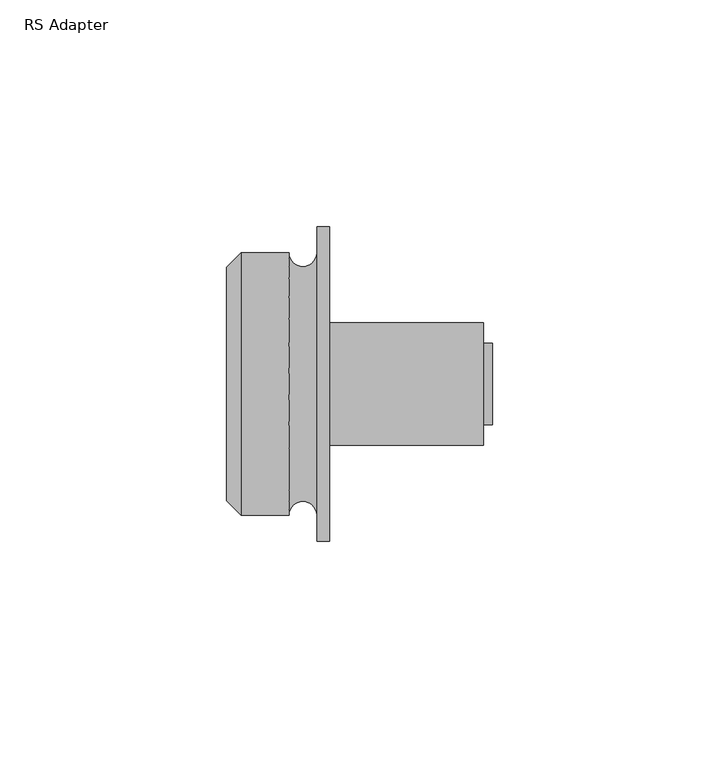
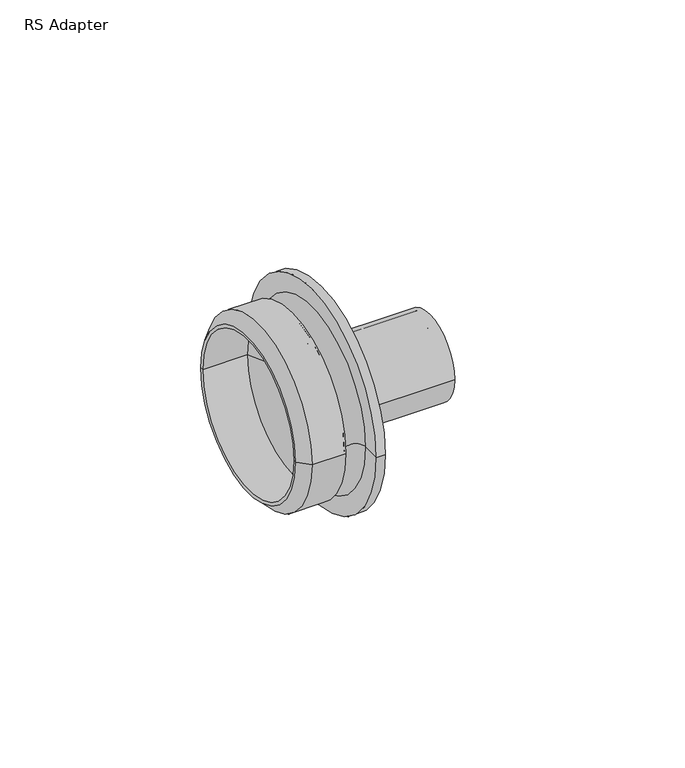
"""IFC4 building model written with IfcOpenShell, lengths in millimetres: pipe fitting geometry, RS Adapter : Superpipe RS Press Adapter."""

from ifc_helpers import new_model, si_unit, point, frame, origin, place, context, project, spatial, polyline, circle_curve, ellipse_curve, trimmed, source, transform, mapped, element, save
from ifc_brep_helpers import plane_surface, cylinder_surface, revolved_surface, advanced_brep


def rs_adapter_ef84fdb0(model_context):
    return source(origin(), model_context, "Body", "AdvancedBrep", [
        advanced_brep(
        [(56.8, -13.5, 0.0), (56.8, 13.5, 0.0), (56.8, 12.5, 0.0), (56.8, -12.5, 0.0), (22.8, 12.5, 0.0), (22.8, -12.5, 0.0), (22.8, 13.5, 0.0), (22.8, -13.5, 0.0)],
        [
            (0, 1, circle_curve(frame((56.8, 0.0, 0.0), z_axis=(1.0, 0.0, 0.0), x_axis=(0.0, 1.0, 0.0)), 13.5)),
            (1, 2),
            (2, 3, circle_curve(frame((56.8, 0.0, 0.0), z_axis=(-1.0, 0.0, 0.0), x_axis=(0.0, 1.0, 0.0)), 12.5)),
            (3, 0),
            (2, 4),
            (4, 5, circle_curve(frame((22.8, 0.0, 0.0), z_axis=(-1.0, 0.0, 0.0), x_axis=(0.0, 1.0, 0.0)), 12.5)),
            (5, 3),
            (4, 6),
            (6, 7, circle_curve(frame((22.8, 0.0, 0.0), z_axis=(-1.0, 0.0, 0.0), x_axis=(0.0, 1.0, 0.0)), 13.5)),
            (7, 5),
            (6, 1),
            (0, 7),
            (6, 7, circle_curve(frame((22.8, 0.0, 0.0), z_axis=(1.0, 0.0, 0.0), x_axis=(0.0, 1.0, 0.0)), 13.5)),
            (0, 1, circle_curve(frame((56.8, 0.0, 0.0), z_axis=(-1.0, 0.0, 0.0), x_axis=(0.0, 1.0, 0.0)), 13.5)),
            (4, 5, circle_curve(frame((22.8, 0.0, 0.0), z_axis=(1.0, 0.0, 0.0), x_axis=(0.0, 1.0, 0.0)), 12.5)),
            (2, 3, circle_curve(frame((56.8, 0.0, 0.0), z_axis=(1.0, 0.0, 0.0), x_axis=(0.0, 1.0, 0.0)), 12.5)),
        ],
        [
            plane_surface(frame((56.8, 0.0, 0.0), z_axis=(1.0, 0.0, 0.0), x_axis=(0.0, 1.0, 0.0))),
            revolved_surface(polyline([(22.799999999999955, 12.5, 0.0), (56.799999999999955, 12.5, 0.0)]), (1994.0, 0.0, 0.0), (-1.0, 0.0, 0.0)),
            plane_surface(frame((22.8, 0.0, 0.0), z_axis=(-1.0, 0.0, 0.0), x_axis=(0.0, 1.0, 0.0))),
            cylinder_surface(frame((1994.0, 0.0, 0.0), z_axis=(-1.0, 0.0, 0.0), x_axis=(0.0, 1.0, 0.0)), 13.5),
        ],
        [
            (0, [[1, 2, 3, 4]]),
            (1, [[-3, 5, 6, 7]]),
            (2, [[-6, 8, 9, 10]]),
            (3, [[-9, 11, -1, 12]]),
            (3, [[13, -12, 14, -11]]),
            (2, [[15, -10, -13, -8]]),
            (1, [[16, -7, -15, -5]]),
            (0, [[-14, -4, -16, -2]]),
        ],
    ),
        advanced_brep(
        [(58.8, -9.0, 0.0), (58.8, 9.0, 0.0), (58.8, 7.0, 0.0), (58.8, -7.0, 0.0), (22.8, 7.0, 0.0), (22.8, -7.0, 0.0), (22.8, 9.0, 0.0), (22.8, -9.0, 0.0)],
        [
            (0, 1, circle_curve(frame((58.8, 0.0, 0.0), z_axis=(1.0, 0.0, 0.0), x_axis=(0.0, 1.0, 0.0)), 9.0)),
            (1, 2),
            (2, 3, circle_curve(frame((58.8, 0.0, 0.0), z_axis=(-1.0, 0.0, 0.0), x_axis=(0.0, 1.0, 0.0)), 7.0)),
            (3, 0),
            (2, 4),
            (4, 5, circle_curve(frame((22.8, 0.0, 0.0), z_axis=(-1.0, 0.0, 0.0), x_axis=(0.0, 1.0, 0.0)), 7.0)),
            (5, 3),
            (4, 6),
            (6, 7, circle_curve(frame((22.8, 0.0, 0.0), z_axis=(-1.0, 0.0, 0.0), x_axis=(0.0, 1.0, 0.0)), 9.0)),
            (7, 5),
            (6, 1),
            (0, 7),
            (6, 7, circle_curve(frame((22.8, 0.0, 0.0), z_axis=(1.0, 0.0, 0.0), x_axis=(0.0, 1.0, 0.0)), 9.0)),
            (0, 1, circle_curve(frame((58.8, 0.0, 0.0), z_axis=(-1.0, 0.0, 0.0), x_axis=(0.0, 1.0, 0.0)), 9.0)),
            (4, 5, circle_curve(frame((22.8, 0.0, 0.0), z_axis=(1.0, 0.0, 0.0), x_axis=(0.0, 1.0, 0.0)), 7.0)),
            (2, 3, circle_curve(frame((58.8, 0.0, 0.0), z_axis=(1.0, 0.0, 0.0), x_axis=(0.0, 1.0, 0.0)), 7.0)),
        ],
        [
            plane_surface(frame((58.8, 0.0, 0.0), z_axis=(1.0, 0.0, 0.0), x_axis=(0.0, 1.0, 0.0))),
            revolved_surface(polyline([(22.799999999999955, 7.0, 0.0), (58.799999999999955, 7.0, 0.0)]), (1994.0, 0.0, 0.0), (-1.0, 0.0, 0.0)),
            plane_surface(frame((22.8, 0.0, 0.0), z_axis=(-1.0, 0.0, 0.0), x_axis=(0.0, 1.0, 0.0))),
            cylinder_surface(frame((1994.0, 0.0, 0.0), z_axis=(-1.0, 0.0, 0.0), x_axis=(0.0, 1.0, 0.0)), 9.0),
        ],
        [
            (0, [[1, 2, 3, 4]]),
            (1, [[-3, 5, 6, 7]]),
            (2, [[-6, 8, 9, 10]]),
            (3, [[-9, 11, -1, 12]]),
            (3, [[13, -12, 14, -11]]),
            (2, [[15, -10, -13, -8]]),
            (1, [[16, -7, -15, -5]]),
            (0, [[-14, -4, -16, -2]]),
        ],
    ),
        advanced_brep(
        [(20.0, -34.75, 0.0), (20.0, 34.75, 0.0), (22.8, 34.75, 0.0), (22.8, -34.75, 0.0), (20.0, -29.0, 0.0), (20.0, 29.0, 0.0), (22.8, 7.0, 0.0), (22.8, -7.0, 0.0), (0.0, -25.8, 0.0), (0.0, 25.8, 0.0), (3.2, 29.0, 0.0), (3.2, -29.0, 0.0), (0.0, -24.8, 0.0), (0.0, 24.8, 0.0), (13.8, -29.0, 0.0), (13.8, 29.0, 0.0), (14.0, -24.8, 0.0), (14.0, 24.8, 0.0)],
        [
            (0, 1, circle_curve(frame((20.0, 0.0, 0.0), z_axis=(1.0, 0.0, 0.0), x_axis=(0.0, 1.0, 0.0)), 34.75)),
            (1, 2),
            (2, 3, circle_curve(frame((22.8, 0.0, 0.0), z_axis=(-1.0, 0.0, 0.0), x_axis=(0.0, 1.0, 0.0)), 34.75)),
            (3, 0),
            (1, 0, circle_curve(frame((20.0, 0.0, 0.0), z_axis=(1.0, 0.0, 0.0), x_axis=(0.0, 1.0, 0.0)), 34.75)),
            (3, 2, circle_curve(frame((22.8, 0.0, 0.0), z_axis=(-1.0, 0.0, 0.0), x_axis=(0.0, 1.0, 0.0)), 34.75)),
            (0, 4),
            (4, 5, circle_curve(frame((20.0, 0.0, 0.0), z_axis=(1.0, 0.0, 0.0), x_axis=(0.0, 1.0, 0.0)), 29.0)),
            (5, 1),
            (5, 4, circle_curve(frame((20.0, 0.0, 0.0), z_axis=(1.0, 0.0, 0.0), x_axis=(0.0, 1.0, 0.0)), 29.0)),
            (2, 6),
            (6, 7, circle_curve(frame((22.8, 0.0, 0.0), z_axis=(-1.0, 0.0, 0.0), x_axis=(0.0, 1.0, 0.0)), 7.0)),
            (7, 3),
            (7, 6, circle_curve(frame((22.8, 0.0, 0.0), z_axis=(-1.0, 0.0, 0.0), x_axis=(0.0, 1.0, 0.0)), 7.0)),
            (8, 9, circle_curve(frame((0.0, 0.0, 0.0), z_axis=(1.0, 0.0, 0.0), x_axis=(0.0, 1.0, 0.0)), 25.8)),
            (9, 10),
            (10, 11, circle_curve(frame((3.2, 0.0, 0.0), z_axis=(-1.0, 0.0, 0.0), x_axis=(0.0, 1.0, 0.0)), 29.0)),
            (11, 8),
            (9, 8, circle_curve(frame((0.0, 0.0, 0.0), z_axis=(1.0, 0.0, 0.0), x_axis=(0.0, 1.0, 0.0)), 25.8)),
            (11, 10, circle_curve(frame((3.2, 0.0, 0.0), z_axis=(-1.0, 0.0, 0.0), x_axis=(0.0, 1.0, 0.0)), 29.0)),
            (8, 12),
            (12, 13, circle_curve(frame((0.0, 0.0, 0.0), z_axis=(1.0, 0.0, 0.0), x_axis=(0.0, 1.0, 0.0)), 24.8)),
            (13, 9),
            (13, 12, circle_curve(frame((0.0, 0.0, 0.0), z_axis=(1.0, 0.0, 0.0), x_axis=(0.0, 1.0, 0.0)), 24.8)),
            (4, 14, circle_curve(frame((16.9, -29.0, 0.0), z_axis=(0.0, 0.0, 1.0), x_axis=(1.0, 0.0, 0.0)), 3.1)),
            (14, 15, circle_curve(frame((13.8, 0.0, 0.0), z_axis=(1.0, 0.0, 0.0), x_axis=(0.0, 1.0, 0.0)), 29.0)),
            (15, 5, circle_curve(frame((16.9, 29.0, 0.0), z_axis=(0.0, 0.0, 1.0), x_axis=(1.0, 0.0, 0.0)), 3.1)),
            (15, 14, circle_curve(frame((13.8, 0.0, 0.0), z_axis=(1.0, 0.0, 0.0), x_axis=(0.0, 1.0, 0.0)), 29.0)),
            (10, 15),
            (14, 11),
            (12, 16),
            (16, 17, circle_curve(frame((14.0, 0.0, 0.0), z_axis=(1.0, 0.0, 0.0), x_axis=(0.0, 1.0, 0.0)), 24.8)),
            (17, 13),
            (17, 16, circle_curve(frame((14.0, 0.0, 0.0), z_axis=(1.0, 0.0, 0.0), x_axis=(0.0, 1.0, 0.0)), 24.8)),
            (16, 7),
            (6, 17),
        ],
        [
            cylinder_surface(frame((1978.8, 0.0, 0.0), z_axis=(-1.0, 0.0, 0.0), x_axis=(0.0, 1.0, 0.0)), 34.75),
            plane_surface(frame((20.0, 0.0, 0.0), z_axis=(-1.0, 0.0, 0.0), x_axis=(0.0, 1.0, 0.0))),
            plane_surface(frame((22.8, 0.0, 0.0), z_axis=(1.0, 0.0, 0.0), x_axis=(0.0, 1.0, 0.0))),
            revolved_surface(polyline([(3.2, 29.0, 0.0), (0.0, 25.8, 0.0)]), (1978.8, 0.0, 0.0), (-1.0, 0.0, 0.0)),
            plane_surface(frame((0.0, 0.0, 0.0), z_axis=(-1.0, 0.0, 0.0), x_axis=(0.0, 1.0, 0.0))),
            revolved_surface(trimmed(ellipse_curve(frame((16.9, 29.0, 0.0), z_axis=(0.0, 0.0, -1.0), x_axis=(1.0, 0.0, 0.0)), 3.1, 3.1), [point((20.0, 29.0, 0.0))], [point((13.8, 29.0, 0.0))], True, "CARTESIAN"), (1978.8, 0.0, 0.0), (-1.0, 0.0, 0.0)),
            cylinder_surface(frame((1978.8, 0.0, 0.0), z_axis=(-1.0, 0.0, 0.0), x_axis=(0.0, 1.0, 0.0)), 29.0),
            revolved_surface(polyline([(0.0, 24.8, 0.0), (14.0, 24.8, 0.0)]), (2005.0, 0.0, 0.0), (-1.0, 0.0, 0.0)),
            revolved_surface(polyline([(14.0, 24.8, 0.0), (22.8, 7.0, 0.0)]), (2005.0, 0.0, 0.0), (-1.0, 0.0, 0.0)),
        ],
        [
            (0, [[1, 2, 3, 4]]),
            (0, [[-2, 5, -4, 6]]),
            (1, [[-1, 7, 8, 9]]),
            (1, [[-5, -9, 10, -7]]),
            (2, [[-3, 11, 12, 13]]),
            (2, [[-6, -13, 14, -11]]),
            (3, [[15, 16, 17, 18]]),
            (3, [[-16, 19, -18, 20]]),
            (4, [[-15, 21, 22, 23]]),
            (4, [[-19, -23, 24, -21]]),
            (5, [[-8, 25, 26, 27]]),
            (5, [[-10, -27, 28, -25]]),
            (6, [[-17, 29, -26, 30]]),
            (6, [[-20, -30, -28, -29]]),
            (7, [[31, 32, 33, -22]]),
            (7, [[-31, -24, -33, 34]]),
            (8, [[-32, 35, -12, 36]]),
            (8, [[-34, -36, -14, -35]]),
        ],
    ),
    ])


if __name__ == "__main__":
    model = new_model("IFC4")
    model_context = context("Model", 3, world=origin())
    ifc_project = project(units=[si_unit("LENGTHUNIT", "METRE", prefix="MILLI")], contexts=[model_context])
    site = spatial("IfcSite", under=ifc_project)
    building = spatial("IfcBuilding", under=site)
    placement = place(None, origin())
    rs_adapter_shape = rs_adapter_ef84fdb0(model_context)
    element("IfcPipeFitting", 1, ObjectType="RS Adapter : Superpipe RS Press Adapter", at=placement, inside=building, context=model_context, shape_type="MappedRepresentation", body=[
        mapped(rs_adapter_shape, transform((0.0, 0.0, 0.0), x_axis=(1.0, 0.0, 0.0), y_axis=(0.0, 1.0, 0.0), z_axis=(0.0, 0.0, 1.0))),
    ])
    save(model, "model.ifc")
